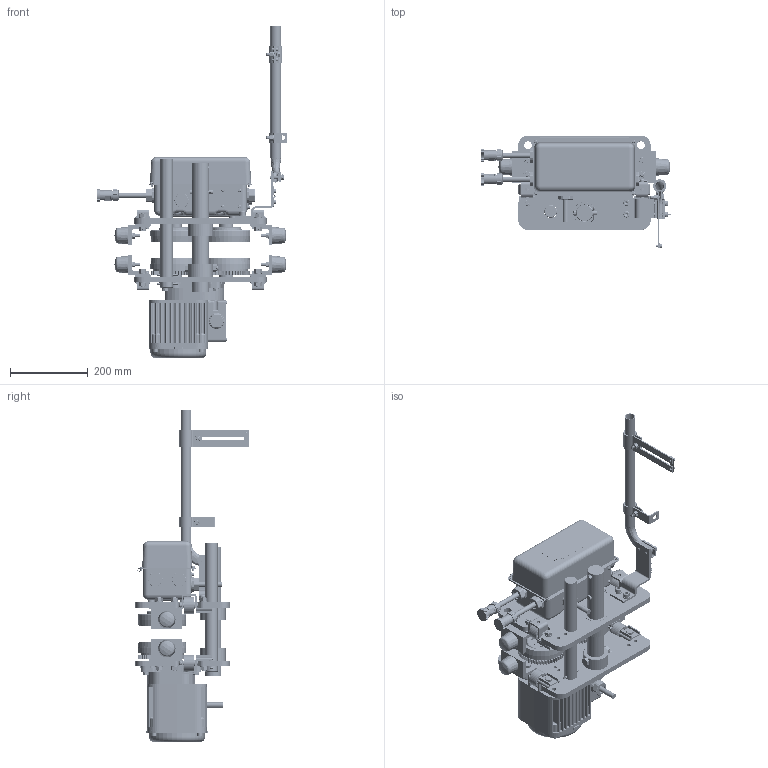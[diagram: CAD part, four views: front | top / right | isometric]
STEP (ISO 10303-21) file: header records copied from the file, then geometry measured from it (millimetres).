
FILE_DESCRIPTION (( 'STEP AP214' ), '1' );
FILE_NAME ('MR025LD.STEP', '2026-08-10T14:44:14', ( '' ), ( '' ), 'SwSTEP 2.0', 'SolidWorks 2026', '' );
FILE_SCHEMA (( 'AUTOMOTIVE_DESIGN' ));
Length unit declared in the file: inch
Products named in the file (91): 9009446_9009446; M6F554010; 9012711_9012711; ECP2108AC; 9093424_9093424; KITO-WASHER; MR1DS1481; MR1ES22111; MR1FS9203; MR1DS9492; MS162030_MS162030; M6SE030S9101; MR1DS1493; MR1DS9411; MS554010; MS551010; MS1101030; MS164030; 9012712_9012712; ECP5924AC1; MR1DS9401_1 - 8 TON & 10 L TON; Socket Head Cap Screw_AM_B18.3.1M - 10 x 1.5 x 20 Hex SHCS -- 20NHX; ES558003; ECP5924AH; MR1DS9493; 9009433_9009433; MR1DS9421; ECP5924AA1; MR1DS9325; ECP5924AD1; 9093351_9093351; MR1FS5201; MR1FS9131_MR1FS9131; MR2DI1811; ECP6916AA; 16-6 (MR2); MR1ES9634; MR1FS9101_MR1FS9101; MS1102030; MS527010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
Assembly tree (230 placements, depth 5):
  MR025LD
    MR1FS5201
      MR1FS9201
      MR1FS9203  x2
      MR1FS9204
    MR1FS5202
      MR1FS9202
      MR1FS9203  x2
      MR1FS9205
    MS1101030  x2
      M6SE030S9101
      J1SR000-00062_JIS B 2804 Hole use 62
      J1GR020-0630
    MS1102030  x2
      M6SE030S9102
      J1SR000-00062_JIS B 2804 Hole use 62
      J1GR020-0630
    MR1ES9634  x4
    MS006020  x4
    MR1ES12112  x2
      M7SE020S91422
      J1PS31-050025
      MR1ES22111
      MR2DS92171
      MR1ES92151
      MR1ES9218
    MR1ES12112_Reversed  x2
      M7SE020S91422
      J1PS31-050025
      MR1ES22111
      MR2DS92171
      MR1ES92151
      MR1ES9218
    MR1FS9631  x4
    9012711_9012711  x8
    9093424_9093424  x4
    9093351_9093351  x4
    9012712_9012712  x14
    9093427_9093427  x12
    9093352_9093352  x8
    9047125_B27.7M - 3AM1-23  x4
    70131XX_7013102
      MR1DS9411
      MR1DS9401_1 - 8 TON & 10 L TON
      MR1DS9421
      MS554010  x12
      MR2DI2811
        ECP5924AH
        MS527010
        MR2DI1811
        ES558003  x4
      MS517010  x4
      MS551010  x4
      MR2DI1768_DEFAULT  x2
        60704
          ECP5924AA1
          ECP5924AD1
          ECP5924AC1
          KITO-WASHER
          ECP5924AB1
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Bounding box: 489.15 x 290.54 x 852.93 mm (x, y, z)
Volume: 7841024.4 mm3; surface area: 2242591 mm2
Topology: 263 solids, 279 shells, 10052 faces, 26713 edges, 17460 vertices
Faces by surface type: plane 4660, cylinder 2817, cone 1383, bspline 688, torus 400, sphere 104
Entity records: 189026 total; most frequent: CARTESIAN_POINT 77127, ORIENTED_EDGE 22994, DIRECTION 21279, EDGE_CURVE 11499, AXIS2_PLACEMENT_3D 7788, VERTEX_POINT 7735, LINE 5703, VECTOR 5703
